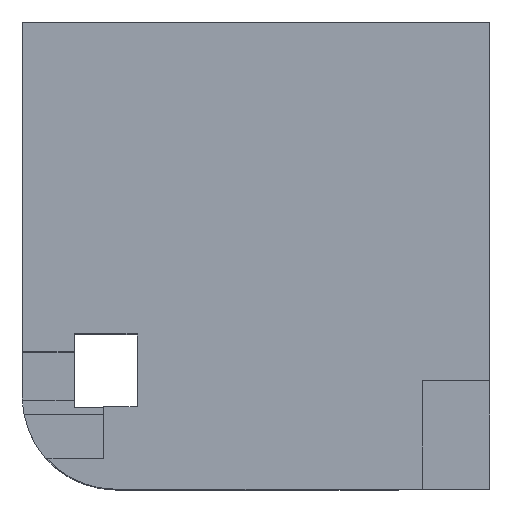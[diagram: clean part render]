
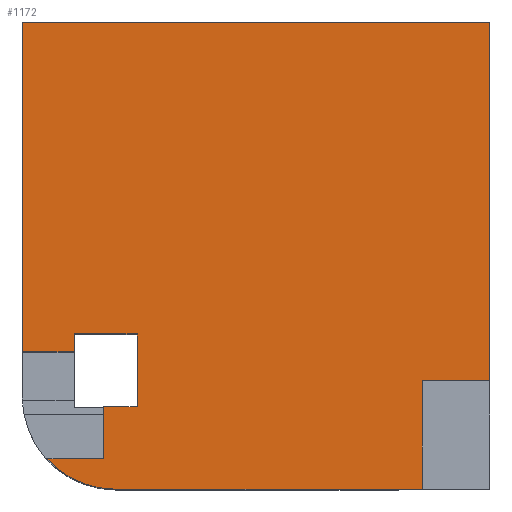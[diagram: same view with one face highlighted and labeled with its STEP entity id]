
A CAD part, top view. The second image highlights one B-rep face of the part: STEP entity #1172.
In plain terms, the highlighted planar face has unit normal (0, 0, 1).
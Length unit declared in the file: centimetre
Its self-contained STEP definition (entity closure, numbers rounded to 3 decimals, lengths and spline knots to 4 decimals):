
#14 = ORIENTED_EDGE ( 'NONE', *, *, #313, .F. ) ;
#15 = ORIENTED_EDGE ( 'NONE', *, *, #990, .F. ) ;
#23 = AXIS2_PLACEMENT_3D ( 'NONE', #160, #1310, #581 ) ;
#46 = FACE_OUTER_BOUND ( 'NONE', #891, .T. ) ;
#54 = CARTESIAN_POINT ( 'NONE',  ( 0., 1000., 1000. ) ) ;
#58 = CARTESIAN_POINT ( 'NONE',  ( 0., 294.6917, 1000. ) ) ;
#73 = CARTESIAN_POINT ( 'NONE',  ( 111.0444, 176.323, 1000. ) ) ;
#88 = CARTESIAN_POINT ( 'NONE',  ( 111.0444, 332.2117, 1000. ) ) ;
#95 = CARTESIAN_POINT ( 'NONE',  ( 245.6011, 176.323, 1000. ) ) ;
#102 = EDGE_CURVE ( 'NONE', #1081, #132, #359, .T. ) ;
#128 = ORIENTED_EDGE ( 'NONE', *, *, #769, .F. ) ;
#132 = VERTEX_POINT ( 'NONE', #268 ) ;
#157 = CARTESIAN_POINT ( 'NONE',  ( 0., 1000., 1000. ) ) ;
#160 = CARTESIAN_POINT ( 'NONE',  ( 199.5479, 199.5479, 1000. ) ) ;
#171 = PLANE ( 'NONE',  #680 ) ;
#178 = DIRECTION ( 'NONE',  ( 0., 1., 0. ) ) ;
#194 = LINE ( 'NONE', #1123, #721 ) ;
#253 = VERTEX_POINT ( 'NONE', #520 ) ;
#254 = CARTESIAN_POINT ( 'NONE',  ( 0., 0., 1000. ) ) ;
#268 = CARTESIAN_POINT ( 'NONE',  ( 199.5479, 0., 1000. ) ) ;
#270 = LINE ( 'NONE', #367, #1202 ) ;
#275 = VECTOR ( 'NONE', #1096, 100. ) ;
#281 = LINE ( 'NONE', #691, #610 ) ;
#295 = DIRECTION ( 'NONE',  ( 0., 1., 0. ) ) ;
#306 = DIRECTION ( 'NONE',  ( 1., 0., 0. ) ) ;
#313 = EDGE_CURVE ( 'NONE', #730, #562, #1265, .T. ) ;
#334 = ORIENTED_EDGE ( 'NONE', *, *, #1168, .T. ) ;
#341 = ORIENTED_EDGE ( 'NONE', *, *, #580, .T. ) ;
#359 = CIRCLE ( 'NONE', #23, 199.5479 ) ;
#367 = CARTESIAN_POINT ( 'NONE',  ( 856.3837, 232.1699, 1000. ) ) ;
#368 = EDGE_CURVE ( 'NONE', #1081, #730, #1164, .T. ) ;
#369 = CARTESIAN_POINT ( 'NONE',  ( 173.5624, 176.323, 1000. ) ) ;
#380 = VERTEX_POINT ( 'NONE', #88 ) ;
#387 = DIRECTION ( 'NONE',  ( 1., 0., 0. ) ) ;
#398 = VERTEX_POINT ( 'NONE', #157 ) ;
#407 = VERTEX_POINT ( 'NONE', #1194 ) ;
#424 = EDGE_CURVE ( 'NONE', #132, #1285, #995, .T. ) ;
#448 = CARTESIAN_POINT ( 'NONE',  ( 0., 294.6917, 1000. ) ) ;
#451 = EDGE_CURVE ( 'NONE', #850, #253, #614, .T. ) ;
#467 = CARTESIAN_POINT ( 'NONE',  ( 0., 0., 1000. ) ) ;
#477 = DIRECTION ( 'NONE',  ( 0., -1., 0. ) ) ;
#479 = EDGE_CURVE ( 'NONE', #578, #380, #803, .T. ) ;
#491 = CARTESIAN_POINT ( 'NONE',  ( 856.3837, 232.1699, 1000. ) ) ;
#497 = VECTOR ( 'NONE', #836, 100. ) ;
#505 = EDGE_CURVE ( 'NONE', #380, #407, #194, .T. ) ;
#520 = CARTESIAN_POINT ( 'NONE',  ( 1000., 1000., 1000. ) ) ;
#524 = DIRECTION ( 'NONE',  ( 0., -1., 0. ) ) ;
#532 = EDGE_CURVE ( 'NONE', #578, #765, #1350, .T. ) ;
#534 = ORIENTED_EDGE ( 'NONE', *, *, #451, .T. ) ;
#552 = ORIENTED_EDGE ( 'NONE', *, *, #102, .T. ) ;
#555 = ORIENTED_EDGE ( 'NONE', *, *, #898, .T. ) ;
#562 = VERTEX_POINT ( 'NONE', #369 ) ;
#565 = VECTOR ( 'NONE', #295, 100. ) ;
#577 = LINE ( 'NONE', #1287, #1359 ) ;
#578 = VERTEX_POINT ( 'NONE', #1025 ) ;
#580 = EDGE_CURVE ( 'NONE', #407, #1277, #1169, .T. ) ;
#581 = DIRECTION ( 'NONE',  ( 1., 0., 0. ) ) ;
#610 = VECTOR ( 'NONE', #707, 100. ) ;
#614 = LINE ( 'NONE', #809, #565 ) ;
#631 = CARTESIAN_POINT ( 'NONE',  ( 173.5624, 64.6349, 1000. ) ) ;
#632 = VECTOR ( 'NONE', #770, 100. ) ;
#647 = ORIENTED_EDGE ( 'NONE', *, *, #505, .T. ) ;
#658 = ORIENTED_EDGE ( 'NONE', *, *, #479, .T. ) ;
#680 = AXIS2_PLACEMENT_3D ( 'NONE', #467, #1016, #941 ) ;
#691 = CARTESIAN_POINT ( 'NONE',  ( 111.0444, 176.323, 1000. ) ) ;
#696 = VECTOR ( 'NONE', #1383, 100. ) ;
#707 = DIRECTION ( 'NONE',  ( -1., 0., 0. ) ) ;
#721 = VECTOR ( 'NONE', #387, 100. ) ;
#726 = CARTESIAN_POINT ( 'NONE',  ( 856.3837, 0., 1000. ) ) ;
#730 = VERTEX_POINT ( 'NONE', #882 ) ;
#761 = ORIENTED_EDGE ( 'NONE', *, *, #826, .T. ) ;
#765 = VERTEX_POINT ( 'NONE', #448 ) ;
#769 = EDGE_CURVE ( 'NONE', #850, #1224, #577, .T. ) ;
#770 = DIRECTION ( 'NONE',  ( 1., 0., 0. ) ) ;
#776 = CARTESIAN_POINT ( 'NONE',  ( 0., 1000., 1000. ) ) ;
#789 = CARTESIAN_POINT ( 'NONE',  ( 1000., 232.1699, 1000. ) ) ;
#803 = LINE ( 'NONE', #73, #1043 ) ;
#809 = CARTESIAN_POINT ( 'NONE',  ( 1000., 1000., 1000. ) ) ;
#826 = EDGE_CURVE ( 'NONE', #253, #398, #1306, .T. ) ;
#836 = DIRECTION ( 'NONE',  ( -1., 0., 0. ) ) ;
#850 = VERTEX_POINT ( 'NONE', #789 ) ;
#872 = ORIENTED_EDGE ( 'NONE', *, *, #368, .F. ) ;
#879 = ORIENTED_EDGE ( 'NONE', *, *, #532, .F. ) ;
#882 = CARTESIAN_POINT ( 'NONE',  ( 173.5624, 64.6349, 1000. ) ) ;
#891 = EDGE_LOOP ( 'NONE', ( #879, #658, #647, #341, #555, #14, #872, #552, #1301, #15, #128, #534, #761, #334 ) ) ;
#898 = EDGE_CURVE ( 'NONE', #1277, #562, #281, .T. ) ;
#941 = DIRECTION ( 'NONE',  ( 1., 0., 0. ) ) ;
#942 = DIRECTION ( 'NONE',  ( 0., -1., 0. ) ) ;
#956 = VECTOR ( 'NONE', #306, 100. ) ;
#965 = CARTESIAN_POINT ( 'NONE',  ( 245.6011, 176.323, 1000. ) ) ;
#990 = EDGE_CURVE ( 'NONE', #1224, #1285, #270, .T. ) ;
#995 = LINE ( 'NONE', #254, #632 ) ;
#1003 = CARTESIAN_POINT ( 'NONE',  ( 52.5178, 64.6349, 1000. ) ) ;
#1011 = DIRECTION ( 'NONE',  ( -1., 0., 0. ) ) ;
#1016 = DIRECTION ( 'NONE',  ( 0., 0., 1. ) ) ;
#1025 = CARTESIAN_POINT ( 'NONE',  ( 111.0444, 294.6917, 1000. ) ) ;
#1043 = VECTOR ( 'NONE', #178, 100. ) ;
#1081 = VERTEX_POINT ( 'NONE', #1003 ) ;
#1096 = DIRECTION ( 'NONE',  ( -1., 0., 0. ) ) ;
#1100 = VECTOR ( 'NONE', #477, 100. ) ;
#1123 = CARTESIAN_POINT ( 'NONE',  ( 111.0444, 332.2117, 1000. ) ) ;
#1125 = LINE ( 'NONE', #54, #1100 ) ;
#1164 = LINE ( 'NONE', #1251, #956 ) ;
#1168 = EDGE_CURVE ( 'NONE', #398, #765, #1125, .T. ) ;
#1169 = LINE ( 'NONE', #95, #1244 ) ;
#1172 = ADVANCED_FACE ( 'NONE', ( #46 ), #171, .T. ) ;
#1194 = CARTESIAN_POINT ( 'NONE',  ( 245.6011, 332.2117, 1000. ) ) ;
#1202 = VECTOR ( 'NONE', #942, 100. ) ;
#1224 = VERTEX_POINT ( 'NONE', #491 ) ;
#1244 = VECTOR ( 'NONE', #524, 100. ) ;
#1251 = CARTESIAN_POINT ( 'NONE',  ( 0., 64.6349, 1000. ) ) ;
#1265 = LINE ( 'NONE', #631, #696 ) ;
#1277 = VERTEX_POINT ( 'NONE', #965 ) ;
#1285 = VERTEX_POINT ( 'NONE', #726 ) ;
#1287 = CARTESIAN_POINT ( 'NONE',  ( 856.3837, 232.1699, 1000. ) ) ;
#1301 = ORIENTED_EDGE ( 'NONE', *, *, #424, .T. ) ;
#1306 = LINE ( 'NONE', #776, #275 ) ;
#1310 = DIRECTION ( 'NONE',  ( 0., 0., 1. ) ) ;
#1350 = LINE ( 'NONE', #58, #497 ) ;
#1359 = VECTOR ( 'NONE', #1011, 100. ) ;
#1383 = DIRECTION ( 'NONE',  ( 0., 1., 0. ) ) ;
